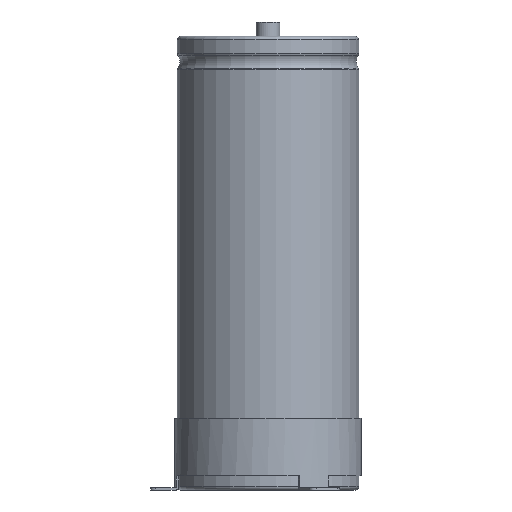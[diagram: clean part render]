
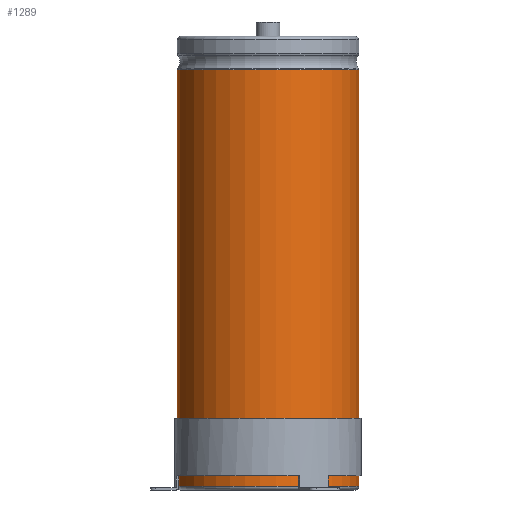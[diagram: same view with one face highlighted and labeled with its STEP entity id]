
A CAD part, front view. The second image highlights one B-rep face of the part: STEP entity #1289.
In plain terms, the highlighted cylindrical face has radius 38.1 mm (diameter 76.2 mm), a partial arc.
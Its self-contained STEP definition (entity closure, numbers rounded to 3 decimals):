
#233=LINE('',#6601,#447);
#234=LINE('',#6605,#448);
#447=VECTOR('',#5224,1.);
#448=VECTOR('',#5227,1.);
#695=FACE_OUTER_BOUND('',#1741,.T.);
#1289=ADVANCED_FACE('',(#695),#1519,.T.);
#1519=CYLINDRICAL_SURFACE('',#4585,38.1);
#1741=EDGE_LOOP('',(#2147,#2148,#2149,#2150));
#2147=ORIENTED_EDGE('',*,*,#3702,.T.);
#2148=ORIENTED_EDGE('',*,*,#3703,.T.);
#2149=ORIENTED_EDGE('',*,*,#3704,.F.);
#2150=ORIENTED_EDGE('',*,*,#3705,.F.);
#3274=VERTEX_POINT('',#6594);
#3276=VERTEX_POINT('',#6598);
#3277=VERTEX_POINT('',#6602);
#3278=VERTEX_POINT('',#6604);
#3702=EDGE_CURVE('',#3274,#3276,#4267,.T.);
#3703=EDGE_CURVE('',#3276,#3277,#233,.T.);
#3704=EDGE_CURVE('',#3278,#3277,#4268,.T.);
#3705=EDGE_CURVE('',#3274,#3278,#234,.T.);
#4267=CIRCLE('',#4582,38.1);
#4268=CIRCLE('',#4584,38.1);
#4582=AXIS2_PLACEMENT_3D('',#6599,#5220,#5221);
#4584=AXIS2_PLACEMENT_3D('',#6603,#5225,#5226);
#4585=AXIS2_PLACEMENT_3D('',#6606,#5228,#5229);
#5220=DIRECTION('',(0.,0.,-1.));
#5221=DIRECTION('',(0.,1.,0.));
#5224=DIRECTION('',(0.,0.,-1.));
#5225=DIRECTION('',(0.,0.,-1.));
#5226=DIRECTION('',(0.,1.,0.));
#5227=DIRECTION('',(0.,0.,-1.));
#5228=DIRECTION('',(0.,0.,-1.));
#5229=DIRECTION('',(0.,1.,0.));
#6594=CARTESIAN_POINT('',(3.983,37.891,175.9));
#6598=CARTESIAN_POINT('',(-3.983,37.891,175.9));
#6599=CARTESIAN_POINT('',(0.,0.,175.9));
#6601=CARTESIAN_POINT('',(-3.983,37.891,175.9));
#6602=CARTESIAN_POINT('',(-3.983,37.891,1.5));
#6603=CARTESIAN_POINT('',(0.,0.,1.5));
#6604=CARTESIAN_POINT('',(3.983,37.891,1.5));
#6605=CARTESIAN_POINT('',(3.983,37.891,175.9));
#6606=CARTESIAN_POINT('',(0.,0.,0.));
